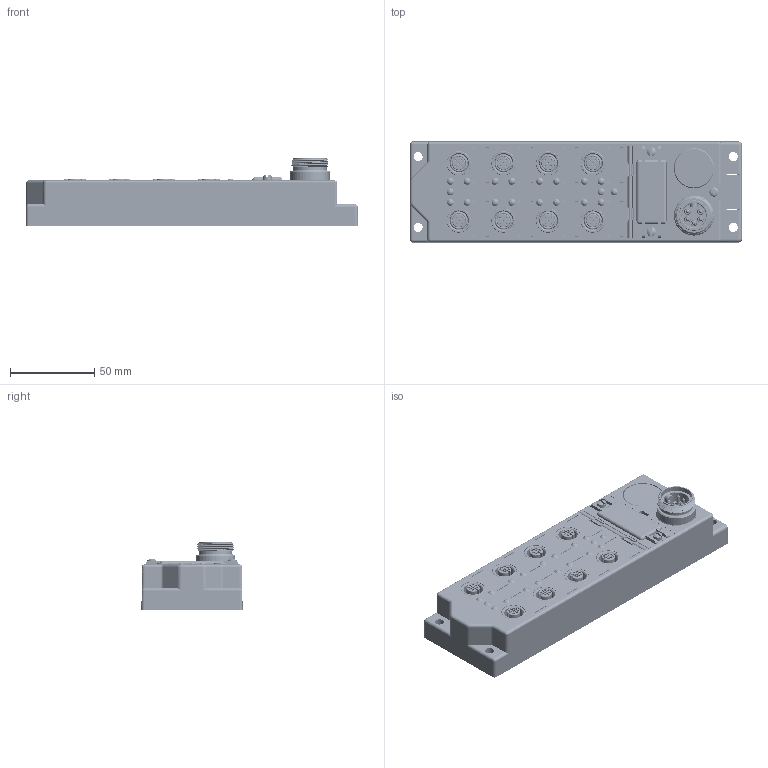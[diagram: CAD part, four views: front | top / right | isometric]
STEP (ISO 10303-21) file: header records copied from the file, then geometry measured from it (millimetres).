
FILE_DESCRIPTION((''),'2;1');
FILE_NAME('C:\TurckZip\FDNL-CSG88-W.stp','2007-02-14T11:00:16',('IKOROL'),(''),'Autodesk Inventor 11','Autodesk Inventor 11','');
FILE_SCHEMA(('AUTOMOTIVE_DESIGN { 1 0 10303 214 1 1 1 1 }'));
Length unit declared in the file: millimetre
Products named in the file (1): Part16
Bounding box: 196.93 x 60 x 40.2 mm (x, y, z)
Volume: 127974.5 mm3; surface area: 107811.9 mm2
Topology: 1 solids, 77 shells, 4049 faces, 10311 edges, 6713 vertices
Faces by surface type: plane 2099, cylinder 1094, bspline 480, cone 309, torus 50, sphere 17
Full cylindrical faces by diameter (mm): 0.4 x1, 0.5 x5, 0.508 x4, 0.55 x1, 0.6 x1, 0.635 x4, 1 x51, 1.1 x80, 1.3 x8, 1.5 x40, 1.6 x23, 1.65 x5, 1.7 x21, 1.8 x16, 1.98 x5, 2 x50, 2.01 x40, 2.2 x2, 2.4 x2, 2.42 x10, 2.8 x6, 2.845 x1, 3 x13, 3.1 x2, 3.5 x2, 3.8 x2, 4 x3, 4.1 x38, 4.6 x2, 5 x19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
Entity records: 125235 total; most frequent: CARTESIAN_POINT 33749, DIRECTION 18012, ORIENTED_EDGE 17926, EDGE_CURVE 8963, AXIS2_PLACEMENT_3D 6393, VERTEX_POINT 6373, EDGE_LOOP 5758, VECTOR 5226
